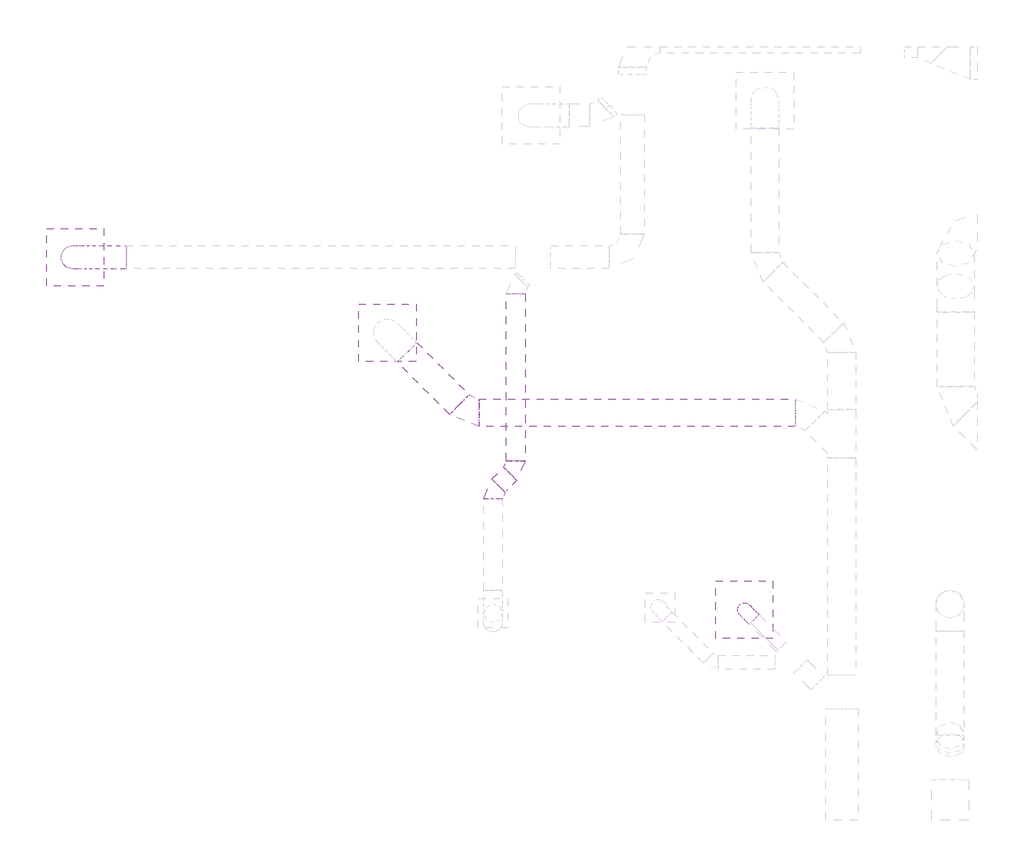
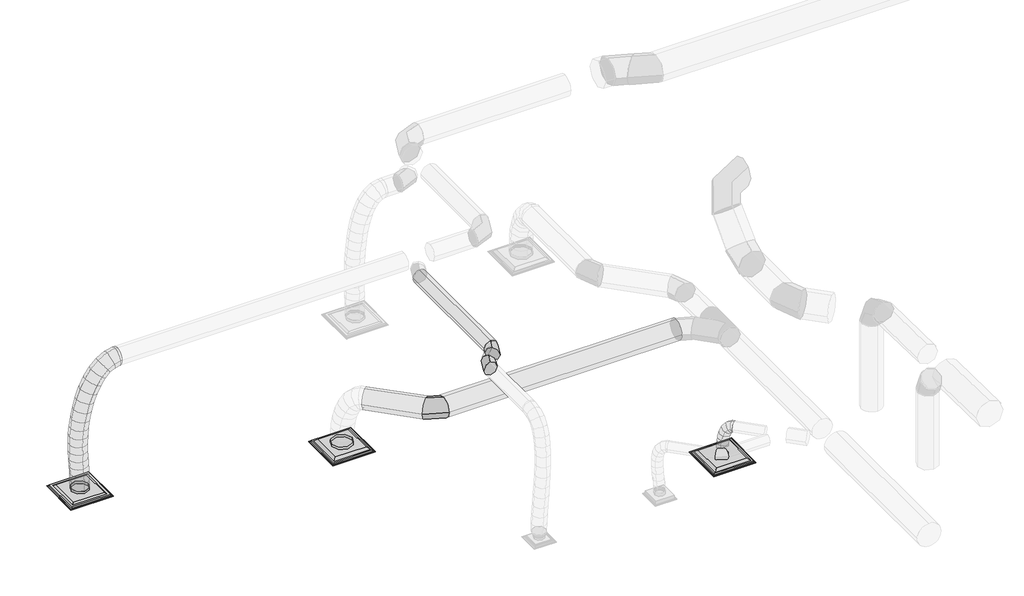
# One storey, part 12 of 33: 6 duct segments, 3 air terminals, 3 duct fittings.
"""IFC4 building model written with IfcOpenShell, lengths in millimetres."""

from ifc_helpers import new_model, si_unit, point, frame, frame_2d, origin, place, context, project, spatial, circle_curve, ellipse_curve, trimmed, segment, composite_curve, outline, extrude, transform, mapped, element, save
from ifc_brep_helpers import plane_surface, cylinder_surface, advanced_brep
from components import air_terminal_a17ada07, air_terminal_620ae9cd, par_aa_10_24x24_32668ffe, round_elbow_1_d_28128332, round_elbow_1_d_ab3aa7ba

model = new_model("IFC4")

# Units and contexts
model_context = context("Model", 3, world=origin())
ifc_project = project(units=[si_unit("LENGTHUNIT", "METRE", prefix="MILLI")], contexts=[model_context])

# Site, building, storey
site = spatial("IfcSite", under=ifc_project)
building = spatial("IfcBuilding", under=site)
storey = spatial("IfcBuildingStorey", under=building, Name="T.O. SLAB - 1ST", Elevation=-25.4)

# Air terminals
placement = place(None, origin())
air_terminal_shape = air_terminal_a17ada07(model_context)
element("IfcAirTerminal", 1, ObjectType="Titus-Round_Neck_Supply_Diffuser-PCS_Surface_Mount : PCS AA-12_24x24", at=placement, inside=storey, context=model_context, shape_type="MappedRepresentation", body=[
    mapped(air_terminal_shape, transform((3889.8132643, 28174.868041, 2717.8), x_axis=(1.0, 0.0, 0.0), y_axis=(0.0, -1.0, 0.0), z_axis=(0.0, 0.0, -1.0))),
])
air_terminal_2_shape = air_terminal_620ae9cd(model_context)
element("IfcAirTerminal", 2, ObjectType="Titus-Round_Neck_Supply_Diffuser-PCS_Surface_Mount : PCS AA-06_24x24", at=placement, inside=storey, context=model_context, shape_type="MappedRepresentation", body=[
    mapped(air_terminal_2_shape, transform((7806.4661048, 25133.1499044, 3022.6), x_axis=(0.0, 1.0, 0.0), y_axis=(1.0, 0.0, 0.0), z_axis=(0.0, 0.0, -1.0))),
])
par_aa_10_24x24_shape = par_aa_10_24x24_32668ffe(model_context)
element("IfcAirTerminal", 3, ObjectType="Titus-Round_Neck_Exhaust_Diffuser-PAR_Surface_Mount : PAR AA-10_24x24", at=placement, inside=storey, context=model_context, shape_type="MappedRepresentation", body=[
    mapped(par_aa_10_24x24_shape, transform((462.4023027, 29002.877105, 2717.8), x_axis=(1.0, 0.0, 0.0), y_axis=(0.0, -1.0, 0.0), z_axis=(0.0, 0.0, -1.0))),
])

# Duct fittings
round_elbow_1_d_shape = round_elbow_1_d_28128332(model_context)
element("IfcDuctFitting", 4, ObjectType="Round Elbow : 1 D", at=placement, inside=storey, context=model_context, shape_type="MappedRepresentation", body=[
    mapped(round_elbow_1_d_shape, transform((4769.0055884, 27295.6755517, 3530.6), x_axis=(0.7071067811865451, -0.70710678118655, 0.0), y_axis=(0.70710678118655, 0.7071067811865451, 0.0), z_axis=(0.0, 0.0, 1.0))),
])
round_elbow_1_d_2_shape = round_elbow_1_d_ab3aa7ba(model_context)
element("IfcDuctFitting", 5, ObjectType="Round Elbow : 1 D", at=placement, inside=storey, context=model_context, shape_type="MappedRepresentation", body=[
    mapped(round_elbow_1_d_2_shape, transform((5297.7037075, 26683.882951, 4648.2), x_axis=(0.7071067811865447, 0.7071067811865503, 0.0), y_axis=(-0.7071067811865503, 0.7071067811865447, 0.0), z_axis=(0.0, 0.0, 1.0))),
])
element("IfcDuctFitting", 6, ObjectType="Round Elbow : 1 D", at=placement, inside=storey, context=model_context, shape_type="MappedRepresentation", body=[
    mapped(round_elbow_1_d_2_shape, transform((5048.7711106, 26434.9503541, 4648.2), x_axis=(-0.7071067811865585, -0.7071067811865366, 0.0), y_axis=(0.7071067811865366, -0.7071067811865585, 0.0), z_axis=(0.0, 0.0, 1.0))),
])

# Duct segments
element("IfcDuctSegment", 7, ObjectType="Flex - Round", at=placement, inside=storey, context=model_context, shape_type="AdvancedBrep", body=[
    advanced_brep(
    [(1025.2754556, 28875.8769704, 4648.2), (1025.2754556, 29002.8769704, 4521.2), (1025.2754556, 29129.8769704, 4648.2), (1025.2754556, 29002.8769704, 4775.2), (1003.6531714, 28875.8769704, 4648.2), (1017.0570877, 29002.8769704, 4521.2), (1003.6531781, 29129.8769704, 4648.2), (990.2492618, 29002.8769704, 4775.2), (462.4022807, 28875.877105, 2787.6500011), (335.4219067, 29002.8771269, 2785.4186241), (462.4023246, 29129.877105, 2787.6499989), (589.3826987, 29002.877083, 2789.8813759), (911.8330804, 28875.8769752, 4628.5998023), (956.4151657, 29002.8769736, 4508.2551897), (911.8331021, 29129.8769752, 4628.5998055), (867.2510168, 29002.8769769, 4748.9444182), (811.6927764, 28875.8769883, 4573.9902933), (887.2620039, 29002.8769826, 4470.543898), (811.6928118, 29129.8769883, 4573.990304), (736.1235842, 29002.876994, 4677.4366992), (724.4676512, 28875.8770074, 4490.658099), (821.1016898, 29002.8769971, 4407.3363745), (724.4676948, 29129.8770074, 4490.6581175), (627.8336562, 29002.8770177, 4573.979842), (649.7708132, 28875.8770301, 4384.8898452), (758.6759278, 29002.8770161, 4318.9435588), (649.7708605, 29129.8770301, 4384.8898689), (540.8657458, 29002.8770441, 4450.8361553), (587.2153704, 28875.8770542, 4262.9721564), (703.2889546, 29002.8770374, 4210.9968885), (587.2154188, 29129.8770542, 4262.9721823), (471.1418345, 29002.877071, 4314.9474502), (536.414431, 28875.8770775, 4131.1916567), (656.8445559, 29002.8770587, 4090.5175008), (536.4144791, 29129.8770775, 4131.1916818), (415.9843542, 29002.8770963, 4171.8658377), (496.9811037, 28875.8770977, 3995.8349705), (620.1959357, 29002.8770775, 3964.7194483), (496.9811506, 29129.8770977, 3995.8349918), (373.7663186, 29002.8771179, 4026.950514), (468.4919241, 28875.8771126, 3862.9776197), (593.5593379, 29002.8770914, 3840.5014869), (468.4919697, 29129.8771126, 3862.9776348), (343.4245558, 29002.8771338, 3885.4537676), (449.8838619, 28875.8771217, 3735.0034955), (576.1210973, 29002.8770999, 3720.572633), (449.8839065, 29129.8771217, 3735.0035037), (323.6466711, 29002.8771434, 3749.4343662), (439.5495935, 28875.8771259, 3611.1547792), (566.3881029, 29002.8771039, 3603.9297489), (439.5496377, 29129.8771259, 3611.1547815), (312.7111283, 29002.877148, 3618.3798118), (435.8644325, 28875.8771264, 3490.5734329), (562.8864443, 29002.8771044, 3489.3527474), (435.8644765, 29129.8771264, 3490.5734304), (308.8424646, 29002.8771484, 3491.7941158), (437.2036924, 28875.877124, 3372.4014186), (564.1744869, 29002.8771021, 3375.6999861), (437.2037364, 29129.877124, 3372.4014126), (310.2329419, 29002.877146, 3369.1028451), (441.9426868, 28875.8771198, 3255.7806983), (568.797972, 29002.877098, 3261.9218077), (441.942731, 29129.8771198, 3255.7806904), (315.0874458, 29002.8771417, 3249.639581), (448.4567294, 28875.8771148, 3139.8532343), (575.2567306, 29002.877093, 3146.9782065), (448.4567735, 29129.8771148, 3139.8532258), (321.6567723, 29002.8771366, 3132.7282535), (455.1211336, 28875.87711, 3023.7609882), (581.9599252, 29002.8770882, 3030.2118671), (455.1211776, 29129.87711, 3023.7609813), (328.282386, 29002.8771319, 3017.3101024), (460.3112129, 28875.8771064, 2906.6459228), (587.261822, 29002.8770845, 2910.5736206), (460.3112568, 29129.8771064, 2906.6459187), (333.3606477, 29002.8771283, 2902.7182208)],
    [
        (0, 1, circle_curve(frame((1025.2754556, 29002.8769704, 4648.2), z_axis=(1.0, 0.0, 0.0), x_axis=(0.0, -1.0, 0.0)), 127.0)),
        (1, 2, circle_curve(frame((1025.2754556, 29002.8769704, 4648.2), z_axis=(1.0, 0.0, 0.0), x_axis=(0.0, -1.0, 0.0)), 127.0)),
        (2, 3, circle_curve(frame((1025.2754556, 29002.8769704, 4648.2), z_axis=(1.0, 0.0, 0.0), x_axis=(0.0, -1.0, 0.0)), 127.0)),
        (3, 0, circle_curve(frame((1025.2754556, 29002.8769704, 4648.2), z_axis=(1.0, 0.0, 0.0), x_axis=(0.0, -1.0, 0.0)), 127.0)),
        (0, 4),
        (4, 5, ellipse_curve(frame((1003.6531748, 29002.8769704, 4648.2), z_axis=(0.9944764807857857, -2.607039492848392e-08, 0.10495965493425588), x_axis=(0.10495965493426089, 2.470129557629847e-07, -0.9944764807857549)), 127.7053831, 127.0)),
        (5, 1),
        (5, 6, ellipse_curve(frame((1003.6531748, 29002.8769704, 4648.2), z_axis=(0.9944764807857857, -2.607039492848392e-08, 0.10495965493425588), x_axis=(0.10495965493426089, 2.470129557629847e-07, -0.9944764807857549)), 127.7053831, 127.0)),
        (6, 2),
        (6, 7, ellipse_curve(frame((1003.6531748, 29002.8769704, 4648.2), z_axis=(0.9944764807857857, -2.607039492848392e-08, 0.10495965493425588), x_axis=(0.10495965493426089, 2.470129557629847e-07, -0.9944764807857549)), 127.7053831, 127.0)),
        (7, 3),
        (7, 4, ellipse_curve(frame((1003.6531748, 29002.8769704, 4648.2), z_axis=(0.9944764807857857, -2.607039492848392e-08, 0.10495965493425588), x_axis=(0.10495965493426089, 2.470129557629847e-07, -0.9944764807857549)), 127.7053831, 127.0)),
        (8, 9, circle_curve(frame((462.4023027, 29002.877105, 2787.65), z_axis=(0.017569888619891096, -1.2014523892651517e-08, -0.9998456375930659), x_axis=(-1.72847019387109e-07, -0.9999999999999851, 8.979007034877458e-09)), 127.0)),
        (9, 10, circle_curve(frame((462.4023027, 29002.877105, 2787.65), z_axis=(0.017569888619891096, -1.2014523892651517e-08, -0.9998456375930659), x_axis=(-1.72847019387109e-07, -0.9999999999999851, 8.979007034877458e-09)), 127.0)),
        (10, 11, circle_curve(frame((462.4023027, 29002.877105, 2787.65), z_axis=(0.017569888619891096, -1.2014523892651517e-08, -0.9998456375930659), x_axis=(-1.72847019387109e-07, -0.9999999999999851, 8.979007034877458e-09)), 127.0)),
        (11, 8, circle_curve(frame((462.4023027, 29002.877105, 2787.65), z_axis=(0.017569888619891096, -1.2014523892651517e-08, -0.9998456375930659), x_axis=(-1.72847019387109e-07, -0.9999999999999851, 8.979007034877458e-09)), 127.0)),
        (4, 12),
        (12, 13, ellipse_curve(frame((911.8330912, 29002.8769752, 4628.5998039), z_axis=(0.9377233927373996, -8.419392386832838e-08, 0.3473828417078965), x_axis=(0.3473828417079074, 2.1854562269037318e-07, -0.9377233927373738)), 128.3370077, 127.0)),
        (13, 5),
        (13, 14, ellipse_curve(frame((911.8330912, 29002.8769752, 4628.5998039), z_axis=(0.9377233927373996, -8.419392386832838e-08, 0.3473828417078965), x_axis=(0.3473828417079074, 2.1854562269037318e-07, -0.9377233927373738)), 128.3370077, 127.0)),
        (14, 6),
        (14, 15, ellipse_curve(frame((911.8330912, 29002.8769752, 4628.5998039), z_axis=(0.9377233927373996, -8.419392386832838e-08, 0.3473828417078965), x_axis=(0.3473828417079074, 2.1854562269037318e-07, -0.9377233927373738)), 128.3370077, 127.0)),
        (15, 7),
        (15, 12, ellipse_curve(frame((911.8330912, 29002.8769752, 4628.5998039), z_axis=(0.9377233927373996, -8.419392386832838e-08, 0.3473828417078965), x_axis=(0.3473828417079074, 2.1854562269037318e-07, -0.9377233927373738)), 128.3370077, 127.0)),
        (12, 16),
        (16, 17, ellipse_curve(frame((811.6927941, 29002.8769883, 4573.9902986), z_axis=(0.8074886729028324, -1.3752431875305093e-07, 0.5898830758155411), x_axis=(0.589883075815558, 1.641734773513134e-07, -0.8074886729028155)), 128.1087947, 127.0)),
        (17, 13),
        (17, 18, ellipse_curve(frame((811.6927941, 29002.8769883, 4573.9902986), z_axis=(0.8074886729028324, -1.3752431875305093e-07, 0.5898830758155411), x_axis=(0.589883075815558, 1.641734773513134e-07, -0.8074886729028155)), 128.1087947, 127.0)),
        (18, 14),
        (18, 19, ellipse_curve(frame((811.6927941, 29002.8769883, 4573.9902986), z_axis=(0.8074886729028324, -1.3752431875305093e-07, 0.5898830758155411), x_axis=(0.589883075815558, 1.641734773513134e-07, -0.8074886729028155)), 128.1087947, 127.0)),
        (19, 15),
        (19, 16, ellipse_curve(frame((811.6927941, 29002.8769883, 4573.9902986), z_axis=(0.8074886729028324, -1.3752431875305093e-07, 0.5898830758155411), x_axis=(0.589883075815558, 1.641734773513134e-07, -0.8074886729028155)), 128.1087947, 127.0)),
        (16, 20),
        (20, 21, ellipse_curve(frame((724.467673, 29002.8770074, 4490.6581082), z_axis=(0.6530140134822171, -1.6750112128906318e-07, 0.7573458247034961), x_axis=(0.7573458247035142, 9.151220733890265e-08, -0.6530140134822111)), 127.5956289, 127.0)),
        (21, 17),
        (21, 22, ellipse_curve(frame((724.467673, 29002.8770074, 4490.6581082), z_axis=(0.6530140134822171, -1.6750112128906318e-07, 0.7573458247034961), x_axis=(0.7573458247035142, 9.151220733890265e-08, -0.6530140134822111)), 127.5956289, 127.0)),
        (22, 18),
        (22, 23, ellipse_curve(frame((724.467673, 29002.8770074, 4490.6581082), z_axis=(0.6530140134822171, -1.6750112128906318e-07, 0.7573458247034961), x_axis=(0.7573458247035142, 9.151220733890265e-08, -0.6530140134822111)), 127.5956289, 127.0)),
        (23, 19),
        (23, 20, ellipse_curve(frame((724.467673, 29002.8770074, 4490.6581082), z_axis=(0.6530140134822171, -1.6750112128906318e-07, 0.7573458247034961), x_axis=(0.7573458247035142, 9.151220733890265e-08, -0.6530140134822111)), 127.5956289, 127.0)),
        (20, 24),
        (24, 25, ellipse_curve(frame((649.7708368, 29002.8770301, 4384.8898571), z_axis=(0.5179754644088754, -1.7632014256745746e-07, 0.8553954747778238), x_axis=(0.8553954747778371, 4.719826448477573e-09, -0.5179754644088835)), 127.3154865, 127.0)),
        (25, 21),
        (25, 26, ellipse_curve(frame((649.7708368, 29002.8770301, 4384.8898571), z_axis=(0.5179754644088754, -1.7632014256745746e-07, 0.8553954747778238), x_axis=(0.8553954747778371, 4.719826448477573e-09, -0.5179754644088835)), 127.3154865, 127.0)),
        (26, 22),
        (26, 27, ellipse_curve(frame((649.7708368, 29002.8770301, 4384.8898571), z_axis=(0.5179754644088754, -1.7632014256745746e-07, 0.8553954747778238), x_axis=(0.8553954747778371, 4.719826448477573e-09, -0.5179754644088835)), 127.3154865, 127.0)),
        (27, 23),
        (27, 24, ellipse_curve(frame((649.7708368, 29002.8770301, 4384.8898571), z_axis=(0.5179754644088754, -1.7632014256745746e-07, 0.8553954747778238), x_axis=(0.8553954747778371, 4.719826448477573e-09, -0.5179754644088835)), 127.3154865, 127.0)),
        (24, 28),
        (28, 29, ellipse_curve(frame((587.2153946, 29002.8770542, 4262.9721693), z_axis=(0.4086781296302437, -1.7080949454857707e-07, 0.9126785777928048), x_axis=(0.912678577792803, -1.0645395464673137e-07, -0.4086781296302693)), 127.1790123, 127.0)),
        (29, 25),
        (29, 30, ellipse_curve(frame((587.2153946, 29002.8770542, 4262.9721693), z_axis=(0.4086781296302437, -1.7080949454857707e-07, 0.9126785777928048), x_axis=(0.912678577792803, -1.0645395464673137e-07, -0.4086781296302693)), 127.1790123, 127.0)),
        (30, 26),
        (30, 31, ellipse_curve(frame((587.2153946, 29002.8770542, 4262.9721693), z_axis=(0.4086781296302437, -1.7080949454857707e-07, 0.9126785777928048), x_axis=(0.912678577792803, -1.0645395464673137e-07, -0.4086781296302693)), 127.1790123, 127.0)),
        (31, 27),
        (31, 28, ellipse_curve(frame((587.2153946, 29002.8770542, 4262.9721693), z_axis=(0.4086781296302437, -1.7080949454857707e-07, 0.9126785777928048), x_axis=(0.912678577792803, -1.0645395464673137e-07, -0.4086781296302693)), 127.1790123, 127.0)),
        (28, 32),
        (32, 33, ellipse_curve(frame((536.414455, 29002.8770775, 4131.1916693), z_axis=(0.31998351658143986, -1.5412829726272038e-07, 0.9474231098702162), x_axis=(0.9474231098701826, -2.589490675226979e-07, -0.31998351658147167)), 127.1133241, 127.0)),
        (33, 29),
        (33, 34, ellipse_curve(frame((536.414455, 29002.8770775, 4131.1916693), z_axis=(0.31998351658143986, -1.5412829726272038e-07, 0.9474231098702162), x_axis=(0.9474231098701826, -2.589490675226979e-07, -0.31998351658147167)), 127.1133241, 127.0)),
        (34, 30),
        (34, 35, ellipse_curve(frame((536.414455, 29002.8770775, 4131.1916693), z_axis=(0.31998351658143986, -1.5412829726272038e-07, 0.9474231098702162), x_axis=(0.9474231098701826, -2.589490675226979e-07, -0.31998351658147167)), 127.1133241, 127.0)),
        (35, 31),
        (35, 32, ellipse_curve(frame((536.414455, 29002.8770775, 4131.1916693), z_axis=(0.31998351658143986, -1.5412829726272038e-07, 0.9474231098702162), x_axis=(0.9474231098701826, -2.589490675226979e-07, -0.31998351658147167)), 127.1133241, 127.0)),
        (32, 36),
        (36, 37, ellipse_curve(frame((496.9811271, 29002.8770977, 3995.8349812), z_axis=(0.24484435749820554, -1.2633970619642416e-07, 0.969562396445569), x_axis=(0.9695623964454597, -4.6521497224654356e-07, -0.24484435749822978)), 127.0829077, 127.0)),
        (37, 33),
        (37, 38, ellipse_curve(frame((496.9811271, 29002.8770977, 3995.8349812), z_axis=(0.24484435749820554, -1.2633970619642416e-07, 0.969562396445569), x_axis=(0.9695623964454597, -4.6521497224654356e-07, -0.24484435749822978)), 127.0829077, 127.0)),
        (38, 34),
        (38, 39, ellipse_curve(frame((496.9811271, 29002.8770977, 3995.8349812), z_axis=(0.24484435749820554, -1.2633970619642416e-07, 0.969562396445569), x_axis=(0.9695623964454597, -4.6521497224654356e-07, -0.24484435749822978)), 127.0829077, 127.0)),
        (39, 35),
        (39, 36, ellipse_curve(frame((496.9811271, 29002.8770977, 3995.8349812), z_axis=(0.24484435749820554, -1.2633970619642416e-07, 0.969562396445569), x_axis=(0.9695623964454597, -4.6521497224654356e-07, -0.24484435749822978)), 127.0829077, 127.0)),
        (36, 40),
        (40, 41, ellipse_curve(frame((468.4919469, 29002.8771126, 3862.9776273), z_axis=(0.17687865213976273, -8.993782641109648e-08, 0.9842326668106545), x_axis=(0.98423266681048, -5.856059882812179e-07, -0.17687865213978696)), 127.0709612, 127.0)),
        (41, 37),
        (41, 42, ellipse_curve(frame((468.4919469, 29002.8771126, 3862.9776273), z_axis=(0.17687865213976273, -8.993782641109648e-08, 0.9842326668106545), x_axis=(0.98423266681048, -5.856059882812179e-07, -0.17687865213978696)), 127.0709612, 127.0)),
        (42, 38),
        (42, 43, ellipse_curve(frame((468.4919469, 29002.8771126, 3862.9776273), z_axis=(0.17687865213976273, -8.993782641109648e-08, 0.9842326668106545), x_axis=(0.98423266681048, -5.856059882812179e-07, -0.17687865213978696)), 127.0709612, 127.0)),
        (43, 39),
        (43, 40, ellipse_curve(frame((468.4919469, 29002.8771126, 3862.9776273), z_axis=(0.17687865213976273, -8.993782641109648e-08, 0.9842326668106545), x_axis=(0.98423266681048, -5.856059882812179e-07, -0.17687865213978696)), 127.0709612, 127.0)),
        (40, 44),
        (44, 45, ellipse_curve(frame((449.8838842, 29002.8771217, 3735.0034996), z_axis=(0.11357577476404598, -5.236755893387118e-08, 0.9935293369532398), x_axis=(0.9935293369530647, -5.881045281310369e-07, -0.11357577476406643)), 127.0593715, 127.0)),
        (45, 41),
        (45, 46, ellipse_curve(frame((449.8838842, 29002.8771217, 3735.0034996), z_axis=(0.11357577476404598, -5.236755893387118e-08, 0.9935293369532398), x_axis=(0.9935293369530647, -5.881045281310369e-07, -0.11357577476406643)), 127.0593715, 127.0)),
        (46, 42),
        (46, 47, ellipse_curve(frame((449.8838842, 29002.8771217, 3735.0034996), z_axis=(0.11357577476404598, -5.236755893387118e-08, 0.9935293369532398), x_axis=(0.9935293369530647, -5.881045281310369e-07, -0.11357577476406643)), 127.0593715, 127.0)),
        (47, 43),
        (47, 44, ellipse_curve(frame((449.8838842, 29002.8771217, 3735.0034996), z_axis=(0.11357577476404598, -5.236755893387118e-08, 0.9935293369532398), x_axis=(0.9935293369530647, -5.881045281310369e-07, -0.11357577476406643)), 127.0593715, 127.0)),
        (44, 48),
        (48, 49, ellipse_curve(frame((439.5496156, 29002.8771259, 3611.1547803), z_axis=(0.056870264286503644, -1.905684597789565e-08, 0.998381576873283), x_axis=(0.9983815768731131, -5.8135949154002e-07, -0.056870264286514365)), 127.0440984, 127.0)),
        (49, 45),
        (49, 50, ellipse_curve(frame((439.5496156, 29002.8771259, 3611.1547803), z_axis=(0.056870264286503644, -1.905684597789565e-08, 0.998381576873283), x_axis=(0.9983815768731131, -5.8135949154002e-07, -0.056870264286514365)), 127.0440984, 127.0)),
        (50, 46),
        (50, 51, ellipse_curve(frame((439.5496156, 29002.8771259, 3611.1547803), z_axis=(0.056870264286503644, -1.905684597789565e-08, 0.998381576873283), x_axis=(0.9983815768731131, -5.8135949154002e-07, -0.056870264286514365)), 127.0440984, 127.0)),
        (51, 47),
        (51, 48, ellipse_curve(frame((439.5496156, 29002.8771259, 3611.1547803), z_axis=(0.056870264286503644, -1.905684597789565e-08, 0.998381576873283), x_axis=(0.9983815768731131, -5.8135949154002e-07, -0.056870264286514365)), 127.0440984, 127.0)),
        (48, 52),
        (52, 53, ellipse_curve(frame((435.8644545, 29002.8771264, 3490.5734316), z_axis=(0.009609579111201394, 8.153939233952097e-09, 0.9999538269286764), x_axis=(0.9999538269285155, -5.675985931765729e-07, -0.00960957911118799)), 127.0278551, 127.0)),
        (53, 49),
        (53, 54, ellipse_curve(frame((435.8644545, 29002.8771264, 3490.5734316), z_axis=(0.009609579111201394, 8.153939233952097e-09, 0.9999538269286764), x_axis=(0.9999538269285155, -5.675985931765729e-07, -0.00960957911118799)), 127.0278551, 127.0)),
        (54, 50),
        (54, 55, ellipse_curve(frame((435.8644545, 29002.8771264, 3490.5734316), z_axis=(0.009609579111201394, 8.153939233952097e-09, 0.9999538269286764), x_axis=(0.9999538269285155, -5.675985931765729e-07, -0.00960957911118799)), 127.0278551, 127.0)),
        (55, 51),
        (55, 52, ellipse_curve(frame((435.8644545, 29002.8771264, 3490.5734316), z_axis=(0.009609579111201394, 8.153939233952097e-09, 0.9999538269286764), x_axis=(0.9999538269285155, -5.675985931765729e-07, -0.00960957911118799)), 127.0278551, 127.0)),
        (52, 56),
        (56, 57, ellipse_curve(frame((437.2037144, 29002.877124, 3372.4014156), z_axis=(-0.025970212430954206, 2.7948290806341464e-08, 0.9996627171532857), x_axis=(0.9996627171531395, -5.401073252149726e-07, 0.0259702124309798)), 127.013612, 127.0)),
        (57, 53),
        (57, 58, ellipse_curve(frame((437.2037144, 29002.877124, 3372.4014156), z_axis=(-0.025970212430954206, 2.7948290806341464e-08, 0.9996627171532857), x_axis=(0.9996627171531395, -5.401073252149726e-07, 0.0259702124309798)), 127.013612, 127.0)),
        (58, 54),
        (58, 59, ellipse_curve(frame((437.2037144, 29002.877124, 3372.4014156), z_axis=(-0.025970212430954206, 2.7948290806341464e-08, 0.9996627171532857), x_axis=(0.9996627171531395, -5.401073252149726e-07, 0.0259702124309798)), 127.013612, 127.0)),
        (59, 55),
        (59, 56, ellipse_curve(frame((437.2037144, 29002.877124, 3372.4014156), z_axis=(-0.025970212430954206, 2.7948290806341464e-08, 0.9996627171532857), x_axis=(0.9996627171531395, -5.401073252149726e-07, 0.0259702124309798)), 127.013612, 127.0)),
        (56, 60),
        (60, 61, ellipse_curve(frame((441.9427089, 29002.8771198, 3255.7806943), z_axis=(-0.04835376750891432, 3.945438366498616e-08, 0.9988302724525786), x_axis=(0.9988302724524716, -4.6407793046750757e-07, 0.04835376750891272)), 127.0038229, 127.0)),
        (61, 57),
        (61, 62, ellipse_curve(frame((441.9427089, 29002.8771198, 3255.7806943), z_axis=(-0.04835376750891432, 3.945438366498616e-08, 0.9988302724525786), x_axis=(0.9988302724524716, -4.6407793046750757e-07, 0.04835376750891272)), 127.0038229, 127.0)),
        (62, 58),
        (62, 63, ellipse_curve(frame((441.9427089, 29002.8771198, 3255.7806943), z_axis=(-0.04835376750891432, 3.945438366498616e-08, 0.9988302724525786), x_axis=(0.9988302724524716, -4.6407793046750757e-07, 0.04835376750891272)), 127.0038229, 127.0)),
        (63, 59),
        (63, 60, ellipse_curve(frame((441.9427089, 29002.8771198, 3255.7806943), z_axis=(-0.04835376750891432, 3.945438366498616e-08, 0.9988302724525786), x_axis=(0.9988302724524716, -4.6407793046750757e-07, 0.04835376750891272)), 127.0038229, 127.0)),
        (60, 64),
        (64, 65, circle_curve(frame((448.4567515, 29002.8771148, 3139.85323), z_axis=(-0.05610217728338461, 4.305394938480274e-08, 0.998425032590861), x_axis=(-1.7381377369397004e-07, -0.9999999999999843, 3.335515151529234e-08)), 127.0)),
        (65, 61),
        (65, 66, circle_curve(frame((448.4567515, 29002.8771148, 3139.85323), z_axis=(-0.05610217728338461, 4.305394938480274e-08, 0.998425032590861), x_axis=(-1.7381377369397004e-07, -0.9999999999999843, 3.335515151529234e-08)), 127.0)),
        (66, 62),
        (66, 67, circle_curve(frame((448.4567515, 29002.8771148, 3139.85323), z_axis=(-0.05610217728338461, 4.305394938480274e-08, 0.998425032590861), x_axis=(-1.7381377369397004e-07, -0.9999999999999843, 3.335515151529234e-08)), 127.0)),
        (67, 63),
        (67, 64, circle_curve(frame((448.4567515, 29002.8771148, 3139.85323), z_axis=(-0.05610217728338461, 4.305394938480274e-08, 0.998425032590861), x_axis=(-1.7381377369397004e-07, -0.9999999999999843, 3.335515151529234e-08)), 127.0)),
        (64, 68),
        (68, 69, ellipse_curve(frame((455.1211556, 29002.87711, 3023.7609848), z_axis=(-0.05079326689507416, 3.6135750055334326e-08, 0.9987091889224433), x_axis=(-0.9987091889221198, 8.028901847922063e-07, -0.050793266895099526)), 127.0027061, 127.0)),
        (69, 65),
        (69, 70, ellipse_curve(frame((455.1211556, 29002.87711, 3023.7609848), z_axis=(-0.05079326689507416, 3.6135750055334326e-08, 0.9987091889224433), x_axis=(-0.9987091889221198, 8.028901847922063e-07, -0.050793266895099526)), 127.0027061, 127.0)),
        (70, 66),
        (70, 71, ellipse_curve(frame((455.1211556, 29002.87711, 3023.7609848), z_axis=(-0.05079326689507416, 3.6135750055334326e-08, 0.9987091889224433), x_axis=(-0.9987091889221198, 8.028901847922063e-07, -0.050793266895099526)), 127.0027061, 127.0)),
        (71, 67),
        (71, 68, ellipse_curve(frame((455.1211556, 29002.87711, 3023.7609848), z_axis=(-0.05079326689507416, 3.6135750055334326e-08, 0.9987091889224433), x_axis=(-0.9987091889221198, 8.028901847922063e-07, -0.050793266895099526)), 127.0027061, 127.0)),
        (68, 72),
        (72, 73, ellipse_curve(frame((460.3112348, 29002.8771064, 2906.6459207), z_axis=(-0.03092401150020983, 2.1456034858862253e-08, 0.9995217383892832), x_axis=(-0.9995217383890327, 7.066755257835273e-07, -0.030924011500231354)), 127.0113318, 127.0)),
        (73, 69),
        (73, 74, ellipse_curve(frame((460.3112348, 29002.8771064, 2906.6459207), z_axis=(-0.03092401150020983, 2.1456034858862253e-08, 0.9995217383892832), x_axis=(-0.9995217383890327, 7.066755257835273e-07, -0.030924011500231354)), 127.0113318, 127.0)),
        (74, 70),
        (74, 75, ellipse_curve(frame((460.3112348, 29002.8771064, 2906.6459207), z_axis=(-0.03092401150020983, 2.1456034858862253e-08, 0.9995217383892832), x_axis=(-0.9995217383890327, 7.066755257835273e-07, -0.030924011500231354)), 127.0113318, 127.0)),
        (75, 71),
        (75, 72, ellipse_curve(frame((460.3112348, 29002.8771064, 2906.6459207), z_axis=(-0.03092401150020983, 2.1456034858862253e-08, 0.9995217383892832), x_axis=(-0.9995217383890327, 7.066755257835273e-07, -0.030924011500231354)), 127.0113318, 127.0)),
        (72, 8),
        (11, 73),
        (10, 74),
        (9, 75),
    ],
    [
        plane_surface(frame((1025.2754556, 29002.8769704, 4521.2), z_axis=(1.0, 0.0, 0.0), x_axis=(0.0, -1.0, 0.0))),
        cylinder_surface(frame((1025.2754556, 29002.8769704, 4648.2), z_axis=(1.0, 0.0, 0.0), x_axis=(0.0, -1.0, 0.0)), 127.0),
        plane_surface(frame((462.4023027, 29129.877105, 2787.6499985), z_axis=(0.01756988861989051, -1.2014523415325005e-08, -0.999845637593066), x_axis=(0.999845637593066, 2.1113066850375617e-10, 0.017569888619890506))),
        cylinder_surface(frame((1003.6531748, 29002.8769704, 4648.2), z_axis=(0.9779669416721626, -5.185278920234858e-08, 0.20875981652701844), x_axis=(-5.185278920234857e-08, -0.9999999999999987, -5.472679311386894e-09)), 127.0),
        cylinder_surface(frame((911.8330912, 29002.8769752, 4628.5998039), z_axis=(0.8779415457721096, -1.1478080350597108e-07, 0.4787678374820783), x_axis=(-1.1499764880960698e-07, -0.999999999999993, -2.886490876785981e-08)), 127.0),
        cylinder_surface(frame((811.6927941, 29002.8769883, 4573.9902986), z_axis=(0.7230580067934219, -1.578872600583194e-07, 0.6907873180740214), x_axis=(-1.5963255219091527e-07, -0.9999999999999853, -6.147140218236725e-08)), 127.0),
        cylinder_surface(frame((724.467673, 29002.8770074, 4490.6581082), z_axis=(0.5768733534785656, -1.7555115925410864e-07, 0.8168336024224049), x_axis=(-1.8144807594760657e-07, -0.9999999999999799, -8.677238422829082e-08)), 127.0),
        cylinder_surface(frame((649.7708368, 29002.8770301, 4384.8898571), z_axis=(0.4565104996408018, -1.7621528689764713e-07, 0.8897180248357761), x_axis=(-1.8984941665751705e-07, -0.999999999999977, -1.0064653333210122e-07)), 127.0),
        cylinder_surface(frame((587.2153946, 29002.8770542, 4262.9721693), z_axis=(0.3596952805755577, -1.6492285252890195e-07, 0.9330698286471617), x_axis=(-1.909644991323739e-07, -0.9999999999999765, -1.0313678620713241e-07)), 127.0),
        cylinder_surface(frame((536.414455, 29002.8770775, 4131.1916693), z_axis=(0.27970120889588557, -1.4305892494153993e-07, 0.9600870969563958), x_axis=(-1.8796217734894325e-07, -0.9999999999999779, -9.424736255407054e-08)), 127.0),
        cylinder_surface(frame((496.9811271, 29002.8770977, 3995.8349812), z_axis=(0.20966803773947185, -1.0945564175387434e-07, 0.9777726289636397), x_axis=(-1.8254598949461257e-07, -0.9999999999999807, -7.27997289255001e-08)), 127.0),
        cylinder_surface(frame((468.4919469, 29002.8771126, 3862.9776273), z_axis=(0.14389171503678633, -7.031956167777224e-08, 0.9895934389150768), x_axis=(-1.775924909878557e-07, -0.9999999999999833, -4.523622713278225e-08)), 127.0),
        cylinder_surface(frame((449.8838842, 29002.8771217, 3735.0034996), z_axis=(0.08315369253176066, -3.436661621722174e-08, 0.9965367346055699), x_axis=(-1.7469717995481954e-07, -0.9999999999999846, -1.9908850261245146e-08)), 127.0),
        cylinder_surface(frame((439.5496156, 29002.8771259, 3611.1547803), z_axis=(0.030547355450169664, -3.733846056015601e-09, 0.9995333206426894), x_axis=(-1.734739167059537e-07, -0.999999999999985, 1.5660541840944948e-09)), 127.0),
        cylinder_surface(frame((435.8644545, 29002.8771264, 3490.5734316), z_axis=(-0.011332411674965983, 2.003814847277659e-08, 0.9999357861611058), x_axis=(-1.733152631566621e-07, -0.9999999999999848, 1.807522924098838e-08)), 127.0),
        cylinder_surface(frame((437.2037144, 29002.877124, 3372.4014156), z_axis=(-0.04060244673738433, 3.585244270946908e-08, 0.9991753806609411), x_axis=(-1.7359460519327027e-07, -0.9999999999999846, 2.8827849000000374e-08)), 127.0),
        cylinder_surface(frame((441.9427089, 29002.8771198, 3255.7806943), z_axis=(-0.05610217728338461, 4.305394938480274e-08, 0.998425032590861), x_axis=(-1.7381377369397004e-07, -0.9999999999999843, 3.335515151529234e-08)), 127.0),
        cylinder_surface(frame((448.4567515, 29002.8771148, 3139.85323), z_axis=(-0.05731175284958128, 4.1376242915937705e-08, 0.9983563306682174), x_axis=(-1.737068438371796e-07, -0.9999999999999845, 3.1472529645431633e-08)), 127.0),
        cylinder_surface(frame((455.1211556, 29002.87711, 3023.7609848), z_axis=(-0.044272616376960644, 3.089371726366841e-08, 0.9990194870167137), x_axis=(-1.7328837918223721e-07, -0.9999999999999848, 2.3244578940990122e-08)), 127.0),
        cylinder_surface(frame((460.3112348, 29002.8771064, 2906.6459207), z_axis=(-0.0175698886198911, 1.201452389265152e-08, 0.9998456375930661), x_axis=(-1.72847019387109e-07, -0.9999999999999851, 8.979007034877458e-09)), 127.0),
    ],
    [
        (0, [[1, 2, 3, 4]]),
        (1, [[-1, 5, 6, 7]]),
        (1, [[-2, -7, 8, 9]]),
        (1, [[-3, -9, 10, 11]]),
        (1, [[-4, -11, 12, -5]]),
        (2, [[13, 14, 15, 16]]),
        (3, [[-6, 17, 18, 19]]),
        (3, [[-8, -19, 20, 21]]),
        (3, [[-10, -21, 22, 23]]),
        (3, [[-12, -23, 24, -17]]),
        (4, [[-18, 25, 26, 27]]),
        (4, [[-20, -27, 28, 29]]),
        (4, [[-22, -29, 30, 31]]),
        (4, [[-24, -31, 32, -25]]),
        (5, [[-26, 33, 34, 35]]),
        (5, [[-28, -35, 36, 37]]),
        (5, [[-30, -37, 38, 39]]),
        (5, [[-32, -39, 40, -33]]),
        (6, [[-34, 41, 42, 43]]),
        (6, [[-36, -43, 44, 45]]),
        (6, [[-38, -45, 46, 47]]),
        (6, [[-40, -47, 48, -41]]),
        (7, [[-42, 49, 50, 51]]),
        (7, [[-44, -51, 52, 53]]),
        (7, [[-46, -53, 54, 55]]),
        (7, [[-48, -55, 56, -49]]),
        (8, [[-50, 57, 58, 59]]),
        (8, [[-52, -59, 60, 61]]),
        (8, [[-54, -61, 62, 63]]),
        (8, [[-56, -63, 64, -57]]),
        (9, [[-58, 65, 66, 67]]),
        (9, [[-60, -67, 68, 69]]),
        (9, [[-62, -69, 70, 71]]),
        (9, [[-64, -71, 72, -65]]),
        (10, [[-66, 73, 74, 75]]),
        (10, [[-68, -75, 76, 77]]),
        (10, [[-70, -77, 78, 79]]),
        (10, [[-72, -79, 80, -73]]),
        (11, [[-74, 81, 82, 83]]),
        (11, [[-76, -83, 84, 85]]),
        (11, [[-78, -85, 86, 87]]),
        (11, [[-80, -87, 88, -81]]),
        (12, [[-82, 89, 90, 91]]),
        (12, [[-84, -91, 92, 93]]),
        (12, [[-86, -93, 94, 95]]),
        (12, [[-88, -95, 96, -89]]),
        (13, [[-90, 97, 98, 99]]),
        (13, [[-92, -99, 100, 101]]),
        (13, [[-94, -101, 102, 103]]),
        (13, [[-96, -103, 104, -97]]),
        (14, [[-98, 105, 106, 107]]),
        (14, [[-100, -107, 108, 109]]),
        (14, [[-102, -109, 110, 111]]),
        (14, [[-104, -111, 112, -105]]),
        (15, [[-106, 113, 114, 115]]),
        (15, [[-108, -115, 116, 117]]),
        (15, [[-110, -117, 118, 119]]),
        (15, [[-112, -119, 120, -113]]),
        (16, [[-114, 121, 122, 123]]),
        (16, [[-116, -123, 124, 125]]),
        (16, [[-118, -125, 126, 127]]),
        (16, [[-120, -127, 128, -121]]),
        (17, [[-122, 129, 130, 131]]),
        (17, [[-124, -131, 132, 133]]),
        (17, [[-126, -133, 134, 135]]),
        (17, [[-128, -135, 136, -129]]),
        (18, [[-130, 137, 138, 139]]),
        (18, [[-132, -139, 140, 141]]),
        (18, [[-134, -141, 142, 143]]),
        (18, [[-136, -143, 144, -137]]),
        (19, [[-138, 145, -16, 146]]),
        (19, [[-140, -146, -15, 147]]),
        (19, [[-142, -147, -14, 148]]),
        (19, [[-144, -148, -13, -145]]),
    ],
),
])
element("IfcDuctSegment", 8, ObjectType="Flex - Round", at=placement, inside=storey, context=model_context, shape_type="AdvancedBrep", body=[
    advanced_brep(
    [(7860.1471211, 24971.3050022, 3530.6), (7914.0286578, 25025.1865389, 3454.4), (7967.9101945, 25079.0680756, 3530.6), (7914.0286578, 25025.1865389, 3606.8), (7845.5325519, 24985.9195714, 3530.6), (7910.8438639, 25028.3713328, 3454.4), (7953.3181617, 25093.6601085, 3530.6), (7888.0068497, 25051.208347, 3606.8), (7752.5387061, 25079.3142712, 3098.7837693), (7752.6313709, 25187.0762643, 3099.2573106), (7860.3935035, 25186.9855376, 3098.8162307), (7860.3008387, 25079.2235444, 3098.3426894), (7820.1747697, 25011.2995728, 3514.6789627), (7905.8680764, 25033.3514802, 3451.2759217), (7927.9988841, 25119.0015716, 3514.703138), (7842.3055775, 25096.9496642, 3578.1061791), (7791.5810788, 25039.9505463, 3471.6655223), (7891.2257396, 25048.0231504, 3429.2494795), (7899.4287629, 25147.6289281, 3471.7251536), (7799.7841021, 25139.556324, 3514.1411965), (7772.454368, 25059.155566, 3408.6668239), (7877.9064082, 25061.3970141, 3385.3788656), (7880.3099022, 25166.8260656, 3408.7523111), (7774.857862, 25164.5846175, 3432.0402694), (7760.8894681, 25070.8057731, 3332.7848793), (7868.0696579, 25071.3063241, 3320.8360035), (7868.7458621, 25178.4754067, 3332.8760082), (7761.5656723, 25177.9748557, 3344.824884), (7754.9828844, 25076.7906448, 3251.1142915), (7862.6419959, 25076.8059262, 3245.7874872), (7862.8385284, 25184.4610381, 3251.1950513), (7755.1794169, 25184.4457567, 3256.5218557), (7752.8330155, 25078.9977623, 3170.7528962), (7860.5901527, 25078.9124078, 3169.0902571), (7860.6878933, 25186.6689423, 3170.8050143), (7752.9307562, 25186.7542968, 3172.4676534)],
    [
        (0, 1, circle_curve(frame((7914.0286578, 25025.1865389, 3530.6), z_axis=(0.7071067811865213, -0.7071067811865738, 0.0), x_axis=(-0.7071067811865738, -0.7071067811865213, 0.0)), 76.2)),
        (1, 2, circle_curve(frame((7914.0286578, 25025.1865389, 3530.6), z_axis=(0.7071067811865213, -0.7071067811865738, 0.0), x_axis=(-0.7071067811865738, -0.7071067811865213, 0.0)), 76.2)),
        (2, 3, circle_curve(frame((7914.0286578, 25025.1865389, 3530.6), z_axis=(0.7071067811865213, -0.7071067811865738, 0.0), x_axis=(-0.7071067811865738, -0.7071067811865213, 0.0)), 76.2)),
        (3, 0, circle_curve(frame((7914.0286578, 25025.1865389, 3530.6), z_axis=(0.7071067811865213, -0.7071067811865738, 0.0), x_axis=(-0.7071067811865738, -0.7071067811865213, 0.0)), 76.2)),
        (0, 4),
        (4, 5, ellipse_curve(frame((7899.4253568, 25039.7898399, 3530.6), z_axis=(0.6915997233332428, -0.6918890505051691, 0.2073146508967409), x_axis=(0.14727630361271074, -0.14591103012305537, -0.9782738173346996)), 77.8922645, 76.2)),
        (5, 1),
        (5, 6, ellipse_curve(frame((7899.4253568, 25039.7898399, 3530.6), z_axis=(0.6915997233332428, -0.6918890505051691, 0.2073146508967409), x_axis=(0.14727630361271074, -0.14591103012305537, -0.9782738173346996)), 77.8922645, 76.2)),
        (6, 2),
        (6, 7, ellipse_curve(frame((7899.4253568, 25039.7898399, 3530.6), z_axis=(0.6915997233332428, -0.6918890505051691, 0.2073146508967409), x_axis=(0.14727630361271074, -0.14591103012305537, -0.9782738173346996)), 77.8922645, 76.2)),
        (7, 3),
        (7, 4, ellipse_curve(frame((7899.4253568, 25039.7898399, 3530.6), z_axis=(0.6915997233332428, -0.6918890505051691, 0.2073146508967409), x_axis=(0.14727630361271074, -0.14591103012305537, -0.9782738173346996)), 77.8922645, 76.2)),
        (8, 9, circle_curve(frame((7806.4661048, 25133.1499044, 3098.8), z_axis=(-0.004089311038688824, 0.0043977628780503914, -0.9999819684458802), x_axis=(-0.7077086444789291, -0.7065043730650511, -0.00021300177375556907)), 76.2)),
        (9, 10, circle_curve(frame((7806.4661048, 25133.1499044, 3098.8), z_axis=(-0.004089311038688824, 0.0043977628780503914, -0.9999819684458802), x_axis=(-0.7077086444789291, -0.7065043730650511, -0.00021300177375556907)), 76.2)),
        (10, 11, circle_curve(frame((7806.4661048, 25133.1499044, 3098.8), z_axis=(-0.004089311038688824, 0.0043977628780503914, -0.9999819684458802), x_axis=(-0.7077086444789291, -0.7065043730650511, -0.00021300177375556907)), 76.2)),
        (11, 8, circle_curve(frame((7806.4661048, 25133.1499044, 3098.8), z_axis=(-0.004089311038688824, 0.0043977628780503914, -0.9999819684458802), x_axis=(-0.7077086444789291, -0.7065043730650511, -0.00021300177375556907)), 76.2)),
        (4, 12),
        (12, 13, ellipse_curve(frame((7874.0868269, 25065.1505722, 3514.6910504), z_axis=(0.5764570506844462, -0.5772404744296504, 0.5783517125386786), x_axis=(0.4094670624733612, -0.40844614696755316, -0.8157870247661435)), 77.7348623, 76.2)),
        (13, 5),
        (13, 14, ellipse_curve(frame((7874.0868269, 25065.1505722, 3514.6910504), z_axis=(0.5764570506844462, -0.5772404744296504, 0.5783517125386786), x_axis=(0.4094670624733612, -0.40844614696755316, -0.8157870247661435)), 77.7348623, 76.2)),
        (14, 6),
        (14, 15, ellipse_curve(frame((7874.0868269, 25065.1505722, 3514.6910504), z_axis=(0.5764570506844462, -0.5772404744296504, 0.5783517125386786), x_axis=(0.4094670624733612, -0.40844614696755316, -0.8157870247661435)), 77.7348623, 76.2)),
        (15, 7),
        (15, 12, ellipse_curve(frame((7874.0868269, 25065.1505722, 3514.6910504), z_axis=(0.5764570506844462, -0.5772404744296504, 0.5783517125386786), x_axis=(0.4094670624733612, -0.40844614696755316, -0.8157870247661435)), 77.7348623, 76.2)),
        (12, 16),
        (16, 17, ellipse_curve(frame((7845.5049209, 25093.7897372, 3471.695338), z_axis=(0.38737220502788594, -0.38844428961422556, 0.8360943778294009), x_axis=(0.5914560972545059, -0.5909603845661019, -0.5485850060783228)), 77.3732819, 76.2)),
        (17, 13),
        (17, 18, ellipse_curve(frame((7845.5049209, 25093.7897372, 3471.695338), z_axis=(0.38737220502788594, -0.38844428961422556, 0.8360943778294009), x_axis=(0.5914560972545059, -0.5909603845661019, -0.5485850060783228)), 77.3732819, 76.2)),
        (18, 14),
        (18, 19, ellipse_curve(frame((7845.5049209, 25093.7897372, 3471.695338), z_axis=(0.38737220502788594, -0.38844428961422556, 0.8360943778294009), x_axis=(0.5914560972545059, -0.5909603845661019, -0.5485850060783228)), 77.3732819, 76.2)),
        (19, 15),
        (19, 16, ellipse_curve(frame((7845.5049209, 25093.7897372, 3471.695338), z_axis=(0.38737220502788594, -0.38844428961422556, 0.8360943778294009), x_axis=(0.5914560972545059, -0.5909603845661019, -0.5485850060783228)), 77.3732819, 76.2)),
        (16, 20),
        (20, 21, ellipse_curve(frame((7826.3821351, 25112.9908158, 3408.7095675), z_axis=(0.21492689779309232, -0.21605245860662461, 0.9524325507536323), x_axis=(0.6733601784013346, -0.6735832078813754, -0.30474863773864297)), 76.5571209, 76.2)),
        (21, 17),
        (21, 22, ellipse_curve(frame((7826.3821351, 25112.9908158, 3408.7095675), z_axis=(0.21492689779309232, -0.21605245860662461, 0.9524325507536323), x_axis=(0.6733601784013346, -0.6735832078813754, -0.30474863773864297)), 76.5571209, 76.2)),
        (22, 18),
        (22, 23, ellipse_curve(frame((7826.3821351, 25112.9908158, 3408.7095675), z_axis=(0.21492689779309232, -0.21605245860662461, 0.9524325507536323), x_axis=(0.6733601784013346, -0.6735832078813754, -0.30474863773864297)), 76.5571209, 76.2)),
        (23, 19),
        (23, 20, ellipse_curve(frame((7826.3821351, 25112.9908158, 3408.7095675), z_axis=(0.21492689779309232, -0.21605245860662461, 0.9524325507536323), x_axis=(0.6733601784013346, -0.6735832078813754, -0.30474863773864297)), 76.5571209, 76.2)),
        (20, 24),
        (24, 25, ellipse_curve(frame((7814.8176651, 25124.6405899, 3332.8304437), z_axis=(0.11061986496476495, -0.11164759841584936, 0.987571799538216), x_axis=(0.6976606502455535, -0.698976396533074, -0.15716747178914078)), 76.3163498, 76.2)),
        (25, 21),
        (25, 26, ellipse_curve(frame((7814.8176651, 25124.6405899, 3332.8304437), z_axis=(0.11061986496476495, -0.11164759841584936, 0.987571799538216), x_axis=(0.6976606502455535, -0.698976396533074, -0.15716747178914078)), 76.3163498, 76.2)),
        (26, 22),
        (26, 27, ellipse_curve(frame((7814.8176651, 25124.6405899, 3332.8304437), z_axis=(0.11061986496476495, -0.11164759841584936, 0.987571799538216), x_axis=(0.6976606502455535, -0.698976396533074, -0.15716747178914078)), 76.3163498, 76.2)),
        (27, 23),
        (27, 24, ellipse_curve(frame((7814.8176651, 25124.6405899, 3332.8304437), z_axis=(0.11061986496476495, -0.11164759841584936, 0.987571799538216), x_axis=(0.6976606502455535, -0.698976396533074, -0.15716747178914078)), 76.3163498, 76.2)),
        (24, 28),
        (28, 29, ellipse_curve(frame((7808.9107064, 25130.6258414, 3251.1546714), z_axis=(0.04936279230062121, -0.05019592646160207, 0.9975187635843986), x_axis=(0.703469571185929, -0.7072300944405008, -0.07039997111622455)), 76.2393693, 76.2)),
        (29, 25),
        (29, 30, ellipse_curve(frame((7808.9107064, 25130.6258414, 3251.1546714), z_axis=(0.04936279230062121, -0.05019592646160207, 0.9975187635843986), x_axis=(0.703469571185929, -0.7072300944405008, -0.07039997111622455)), 76.2393693, 76.2)),
        (30, 26),
        (30, 31, ellipse_curve(frame((7808.9107064, 25130.6258414, 3251.1546714), z_axis=(0.04936279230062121, -0.05019592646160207, 0.9975187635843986), x_axis=(0.703469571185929, -0.7072300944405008, -0.07039997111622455)), 76.2393693, 76.2)),
        (31, 27),
        (31, 28, ellipse_curve(frame((7808.9107064, 25130.6258414, 3251.1546714), z_axis=(0.04936279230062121, -0.05019592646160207, 0.9975187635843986), x_axis=(0.703469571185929, -0.7072300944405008, -0.07039997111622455)), 76.2393693, 76.2)),
        (28, 32),
        (32, 33, ellipse_curve(frame((7806.7604544, 25132.8333523, 3170.7789553), z_axis=(0.015413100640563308, -0.015923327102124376, 0.9997544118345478), x_axis=(0.7006640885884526, -0.7131470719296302, -0.02216052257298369)), 76.2099499, 76.2)),
        (33, 29),
        (33, 34, ellipse_curve(frame((7806.7604544, 25132.8333523, 3170.7789553), z_axis=(0.015413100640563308, -0.015923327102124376, 0.9997544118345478), x_axis=(0.7006640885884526, -0.7131470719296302, -0.02216052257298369)), 76.2099499, 76.2)),
        (34, 30),
        (34, 35, ellipse_curve(frame((7806.7604544, 25132.8333523, 3170.7789553), z_axis=(0.015413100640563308, -0.015923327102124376, 0.9997544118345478), x_axis=(0.7006640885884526, -0.7131470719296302, -0.02216052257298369)), 76.2099499, 76.2)),
        (35, 31),
        (35, 32, ellipse_curve(frame((7806.7604544, 25132.8333523, 3170.7789553), z_axis=(0.015413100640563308, -0.015923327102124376, 0.9997544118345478), x_axis=(0.7006640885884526, -0.7131470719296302, -0.02216052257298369)), 76.2099499, 76.2)),
        (32, 8),
        (11, 33),
        (10, 34),
        (9, 35),
    ],
    [
        plane_surface(frame((7914.0286578, 25025.1865389, 3606.8), z_axis=(0.7071067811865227, -0.7071067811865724, 0.0), x_axis=(0.7071067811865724, 0.7071067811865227, 0.0))),
        cylinder_surface(frame((7914.0286578, 25025.1865389, 3530.6), z_axis=(0.7071067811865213, -0.7071067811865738, 0.0), x_axis=(-0.7071067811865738, -0.7071067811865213, 0.0)), 76.2),
        plane_surface(frame((7806.4661048, 25209.3491675, 3099.1351123), z_axis=(-0.0040893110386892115, 0.0043977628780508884, -0.9999819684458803), x_axis=(0.9999916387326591, 1.7983970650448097e-05, -0.004089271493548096))),
        cylinder_surface(frame((7899.4253568, 25039.7898399, 3530.6), z_axis=(0.646041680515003, -0.6466077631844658, 0.40562118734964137), x_axis=(-0.7073897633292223, -0.7068236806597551, -8.482702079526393e-05)), 76.2),
        cylinder_surface(frame((7874.0868269, 25065.1505722, 3514.6910504), z_axis=(0.48410831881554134, -0.48507814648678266, 0.7282433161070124), x_axis=(-0.7075953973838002, -0.7066177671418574, -0.0002911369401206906)), 76.2),
        cylinder_surface(frame((7845.5049209, 25093.7897372, 3471.695338), z_axis=(0.2788879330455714, -0.28002976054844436, 0.9185885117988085), x_axis=(-0.7077003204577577, -0.7065125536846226, -0.0005176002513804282)), 76.2),
        cylinder_surface(frame((7826.3821351, 25112.9908158, 3408.7095675), z_axis=(0.1489606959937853, -0.15005948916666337, 0.9773908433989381), x_axis=(-0.7077205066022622, -0.7064922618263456, -0.0006070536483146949)), 76.2),
        cylinder_surface(frame((7814.8176651, 25124.6405899, 3332.8304437), z_axis=(0.07194173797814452, -0.07289527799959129, 0.9947415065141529), x_axis=(-0.7077184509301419, -0.706494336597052, -0.000588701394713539)), 76.2),
        cylinder_surface(frame((7808.9107064, 25130.6258414, 3251.1546714), z_axis=(0.026732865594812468, -0.02744473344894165, 0.9992658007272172), x_axis=(-0.7077126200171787, -0.7065002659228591, -0.00047087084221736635)), 76.2),
        cylinder_surface(frame((7806.7604544, 25132.8333523, 3170.7789553), z_axis=(0.004089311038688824, -0.0043977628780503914, 0.9999819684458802), x_axis=(-0.7077086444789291, -0.7065043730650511, -0.00021300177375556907)), 76.2),
    ],
    [
        (0, [[1, 2, 3, 4]]),
        (1, [[-1, 5, 6, 7]]),
        (1, [[-2, -7, 8, 9]]),
        (1, [[-3, -9, 10, 11]]),
        (1, [[-4, -11, 12, -5]]),
        (2, [[13, 14, 15, 16]]),
        (3, [[-6, 17, 18, 19]]),
        (3, [[-8, -19, 20, 21]]),
        (3, [[-10, -21, 22, 23]]),
        (3, [[-12, -23, 24, -17]]),
        (4, [[-18, 25, 26, 27]]),
        (4, [[-20, -27, 28, 29]]),
        (4, [[-22, -29, 30, 31]]),
        (4, [[-24, -31, 32, -25]]),
        (5, [[-26, 33, 34, 35]]),
        (5, [[-28, -35, 36, 37]]),
        (5, [[-30, -37, 38, 39]]),
        (5, [[-32, -39, 40, -33]]),
        (6, [[-34, 41, 42, 43]]),
        (6, [[-36, -43, 44, 45]]),
        (6, [[-38, -45, 46, 47]]),
        (6, [[-40, -47, 48, -41]]),
        (7, [[-42, 49, 50, 51]]),
        (7, [[-44, -51, 52, 53]]),
        (7, [[-46, -53, 54, 55]]),
        (7, [[-48, -55, 56, -49]]),
        (8, [[-50, 57, 58, 59]]),
        (8, [[-52, -59, 60, 61]]),
        (8, [[-54, -61, 62, 63]]),
        (8, [[-56, -63, 64, -57]]),
        (9, [[-58, 65, -16, 66]]),
        (9, [[-60, -66, -15, 67]]),
        (9, [[-62, -67, -14, 68]]),
        (9, [[-64, -68, -13, -65]]),
    ],
),
])
element("IfcDuctSegment", 9, ObjectType="Taps", at=placement, inside=storey, context=model_context, shape_type="SweptSolid", body=[
    extrude(outline(composite_curve([segment(trimmed(circle_curve(frame_2d((4648.2, 5297.7037075)), 101.6), [point((4648.2, 5196.1037075))], [point((4546.6, 5297.7037075))], False, "CARTESIAN"), True, "CONTINUOUS"), segment(trimmed(circle_curve(frame_2d((4648.2, 5297.7037075)), 101.6), [point((4546.6, 5297.7037075))], [point((4648.2, 5399.3037075))], False, "CARTESIAN"), True, "CONTINUOUS"), segment(trimmed(circle_curve(frame_2d((4648.2, 5297.7037075)), 101.6), [point((4648.2, 5399.3037075))], [point((4749.8, 5297.7037075))], False, "CARTESIAN"), True, "CONTINUOUS"), segment(trimmed(circle_curve(frame_2d((4648.2, 5297.7037075)), 101.6), [point((4749.8, 5297.7037075))], [point((4648.2, 5196.1037075))], False, "CARTESIAN"), True, "CONTINUOUS")], self_intersect=False)), frame((0.0, 26768.0511469, 0.0), z_axis=(0.0, 1.0, 0.0), x_axis=(0.0, 0.0, 1.0)), (0.0, 0.0, 1.0), 1834.4017815),
])
element("IfcDuctSegment", 10, ObjectType="Taps", at=placement, inside=storey, context=model_context, shape_type="SweptSolid", body=[
    extrude(outline(composite_curve([segment(trimmed(circle_curve(frame_2d((0.0, -101.6)), 101.6), [point((-101.6, -101.6))], [point((0.0, 0.0))], False, "CARTESIAN"), True, "CONTINUOUS"), segment(trimmed(circle_curve(frame_2d((0.0, -101.6)), 101.6), [point((0.0, 0.0))], [point((101.6, -101.6))], False, "CARTESIAN"), True, "CONTINUOUS"), segment(trimmed(circle_curve(frame_2d((0.0, -101.6)), 101.6), [point((101.6, -101.6))], [point((0.0, -203.2))], False, "CARTESIAN"), True, "CONTINUOUS"), segment(trimmed(circle_curve(frame_2d((0.0, -101.6)), 101.6), [point((0.0, -203.2))], [point((-101.6, -101.6))], False, "CARTESIAN"), True, "CONTINUOUS")], self_intersect=False)), frame((5108.2870126, 26494.4662561, 4546.6), z_axis=(0.7071067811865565, 0.7071067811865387, 0.0), x_axis=(0.7071067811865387, -0.7071067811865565, 0.0)), (0.0, 0.0, 1.0), 183.707463),
])
element("IfcDuctSegment", 11, ObjectType="Taps", at=placement, inside=storey, context=model_context, shape_type="SweptSolid", body=[
    extrude(outline(composite_curve([segment(trimmed(circle_curve(frame_2d((27295.6755517, 3530.6)), 152.4), [point((27448.0755517, 3530.6))], [point((27295.6755517, 3378.2))], False, "CARTESIAN"), True, "CONTINUOUS"), segment(trimmed(circle_curve(frame_2d((27295.6755517, 3530.6)), 152.4), [point((27295.6755517, 3378.2))], [point((27143.2755517, 3530.6))], False, "CARTESIAN"), True, "CONTINUOUS"), segment(trimmed(circle_curve(frame_2d((27295.6755517, 3530.6)), 152.4), [point((27143.2755517, 3530.6))], [point((27295.6755517, 3683.0))], False, "CARTESIAN"), True, "CONTINUOUS"), segment(trimmed(circle_curve(frame_2d((27295.6755517, 3530.6)), 152.4), [point((27295.6755517, 3683.0))], [point((27448.0755517, 3530.6))], False, "CARTESIAN"), True, "CONTINUOUS")], self_intersect=False)), frame((4895.2578822, 0.0, 0.0), z_axis=(1.0, 0.0, 0.0), x_axis=(0.0, 1.0, 0.0)), (0.0, 0.0, 1.0), 3469.607086),
])
element("IfcDuctSegment", 12, ObjectType="Taps", at=placement, inside=storey, context=model_context, shape_type="SweptSolid", body=[
    extrude(outline(composite_curve([segment(trimmed(circle_curve(frame_2d((0.0, 152.4)), 152.4), [point((152.3999999, 152.4))], [point((0.0, 0.0))], False, "CARTESIAN"), True, "CONTINUOUS"), segment(trimmed(circle_curve(frame_2d((0.0, 152.4)), 152.4), [point((0.0, 0.0))], [point((-152.4000001, 152.4))], False, "CARTESIAN"), True, "CONTINUOUS"), segment(trimmed(circle_curve(frame_2d((0.0, 152.4)), 152.4), [point((-152.4000001, 152.4))], [point((0.0, 304.8))], False, "CARTESIAN"), True, "CONTINUOUS"), segment(trimmed(circle_curve(frame_2d((0.0, 152.4)), 152.4), [point((0.0, 304.8))], [point((152.3999999, 152.4))], False, "CARTESIAN"), True, "CONTINUOUS")], self_intersect=False)), frame((4679.7317353, 27384.9494048, 3683.0), z_axis=(-0.7071067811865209, 0.7071067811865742, 0.0), x_axis=(0.7071067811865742, 0.7071067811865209, 0.0)), (0.0, 0.0, 1.0), 812.3138425),
])

save(model, "model.ifc")
